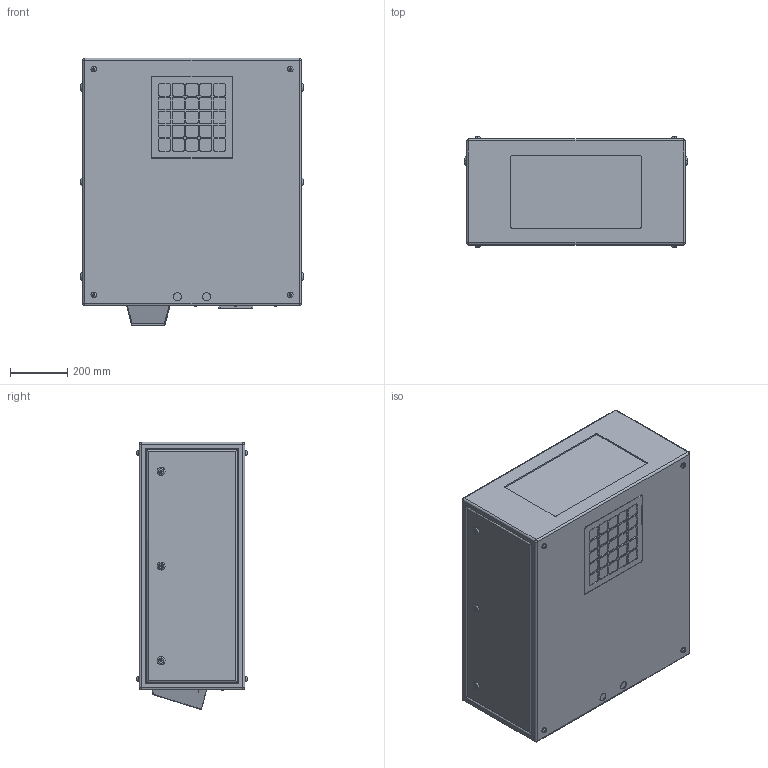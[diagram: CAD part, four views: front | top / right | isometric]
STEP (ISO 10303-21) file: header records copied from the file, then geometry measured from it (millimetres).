
FILE_DESCRIPTION (( 'STEP AP214' ), '1' );
FILE_NAME ('Blizzard 52.100.Lx.xx R06.STEP', '2020-04-29T00:23:41', ( '' ), ( '' ), 'SwSTEP 2.0', 'SolidWorks 2018', '' );
FILE_SCHEMA (( 'AUTOMOTIVE_DESIGN' ));
Length unit declared in the file: inch
Products named in the file (1): Blizzard 52.100.Lx.xx R06
Bounding box: 774.7 x 384.56 x 933.2 mm (x, y, z)
Volume: 242235907.7 mm3; surface area: 2766881.6 mm2
Topology: 1 solids, 5 shells, 635 faces, 1527 edges, 984 vertices
Faces by surface type: plane 340, cylinder 245, torus 40, sphere 10
Entity records: 22299 total; most frequent: DIRECTION 3305, CARTESIAN_POINT 3199, ORIENTED_EDGE 3038, EDGE_CURVE 1519, AXIS2_PLACEMENT_3D 1170, VERTEX_POINT 984, VECTOR 965, LINE 965
